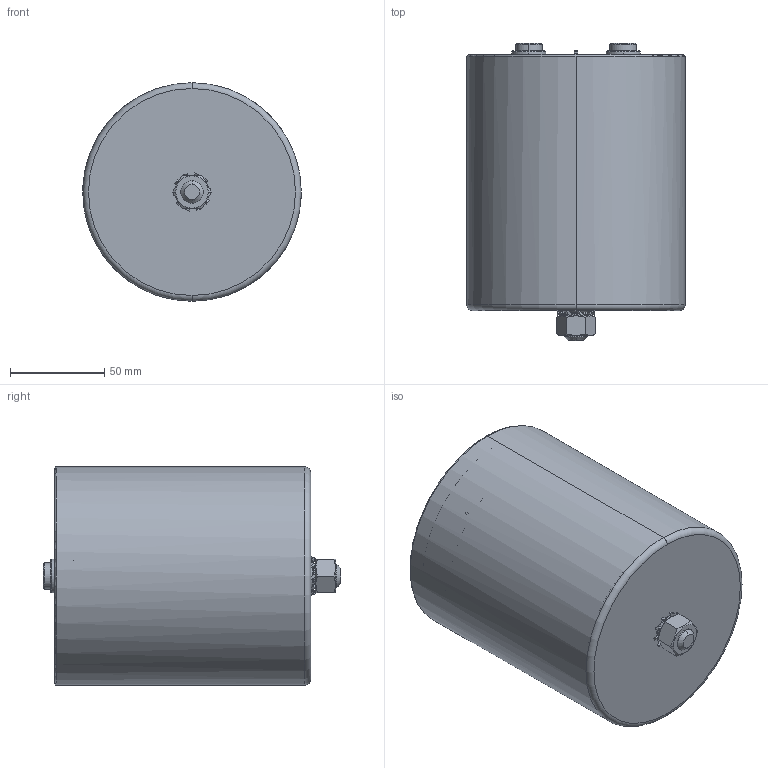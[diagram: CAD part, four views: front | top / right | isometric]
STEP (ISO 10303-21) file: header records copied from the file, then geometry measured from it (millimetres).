
FILE_DESCRIPTION (( 'STEP AP214' ), '1' );
FILE_NAME ('B25690 Series ¦µ116 Hc136 Ht142.STEP', '2025-01-14T07:48:06', ( '' ), ( '' ), 'SwSTEP 2.0', 'SolidWorks 2019', '' );
FILE_SCHEMA (( 'AUTOMOTIVE_DESIGN' ));
Length unit declared in the file: millimetre
Products named in the file (1): B25690 Series 朴116 Hc136 Ht142
Bounding box: 116 x 158 x 116 mm (x, y, z)
Volume: 147724.7 mm3; surface area: 159578.9 mm2
Topology: 1 solids, 2 shells, 371 faces, 1009 edges, 645 vertices
Faces by surface type: plane 137, cylinder 124, cone 50, bspline 40, torus 16, sphere 4
Entity records: 12572 total; most frequent: CARTESIAN_POINT 3598, ORIENTED_EDGE 2002, DIRECTION 1734, EDGE_CURVE 1001, AXIS2_PLACEMENT_3D 647, VERTEX_POINT 645, LINE 440, VECTOR 440
